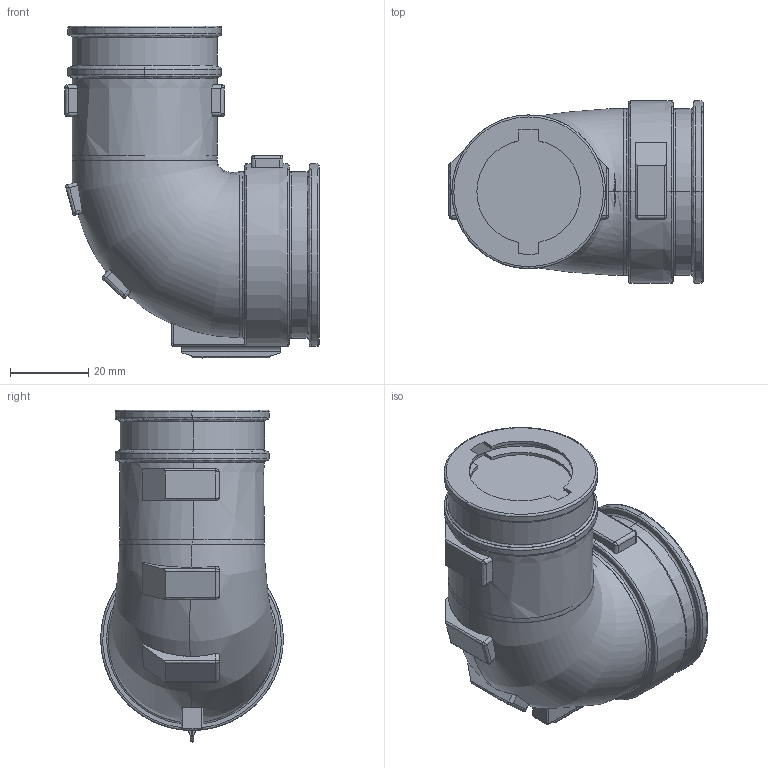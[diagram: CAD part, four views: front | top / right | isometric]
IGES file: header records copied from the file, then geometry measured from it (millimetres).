
Start section:  PTC IGES file: c-2428-011-2405-99-3d.igs
Global section: file name: c-2428-011-2405-99-3d.igs; native system: Creo Parametric by Parametric Technology Corporation; preprocessor: 2013050; author: workeradm; organization: Unknown; units: millimetre
Bounding box: 64.77 x 46.58 x 84.66 mm (x, y, z)
Surface area: 17358 mm2 (no closed solid volume)
Topology: 0 solids, 0 shells, 172 faces, 858 edges, 858 vertices
Faces by surface type: revolution 88, bspline 84
